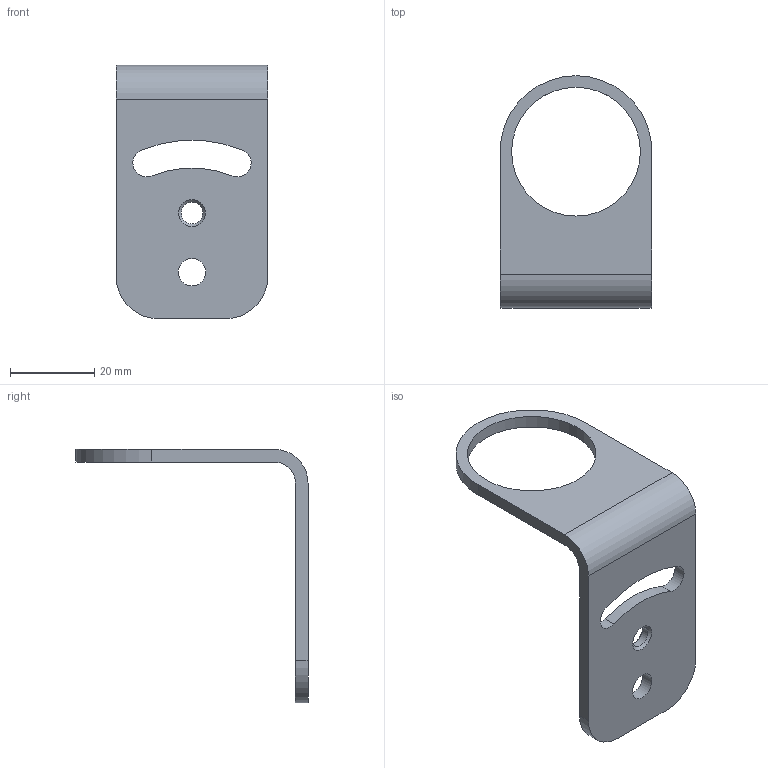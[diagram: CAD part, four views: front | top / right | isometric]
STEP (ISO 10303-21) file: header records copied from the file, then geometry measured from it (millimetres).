
FILE_DESCRIPTION (( 'STEP AP214' ), '1' );
FILE_NAME ('1R029 Montagewinkel-Xi-RevB.STEP', '2020-04-01T08:55:58', ( '' ), ( '' ), 'SwSTEP 2.0', 'SolidWorks 2019', '' );
FILE_SCHEMA (( 'AUTOMOTIVE_DESIGN' ));
Length unit declared in the file: millimetre
Products named in the file (1): 1R029 Montagewinkel-Xi-RevB
Bounding box: 36 x 55 x 60 mm (x, y, z)
Volume: 8351 mm3; surface area: 6951.3 mm2
Topology: 1 solids, 1 shells, 21 faces, 56 edges, 37 vertices
Faces by surface type: cylinder 12, plane 7, cone 2
Full cylindrical faces by diameter (mm): 5.105 x1, 6.5 x1, 30.5 x1
Entity records: 695 total; most frequent: DIRECTION 120, CARTESIAN_POINT 108, ORIENTED_EDGE 100, EDGE_CURVE 50, AXIS2_PLACEMENT_3D 48, VERTEX_POINT 36, EDGE_LOOP 34, CIRCLE 26
